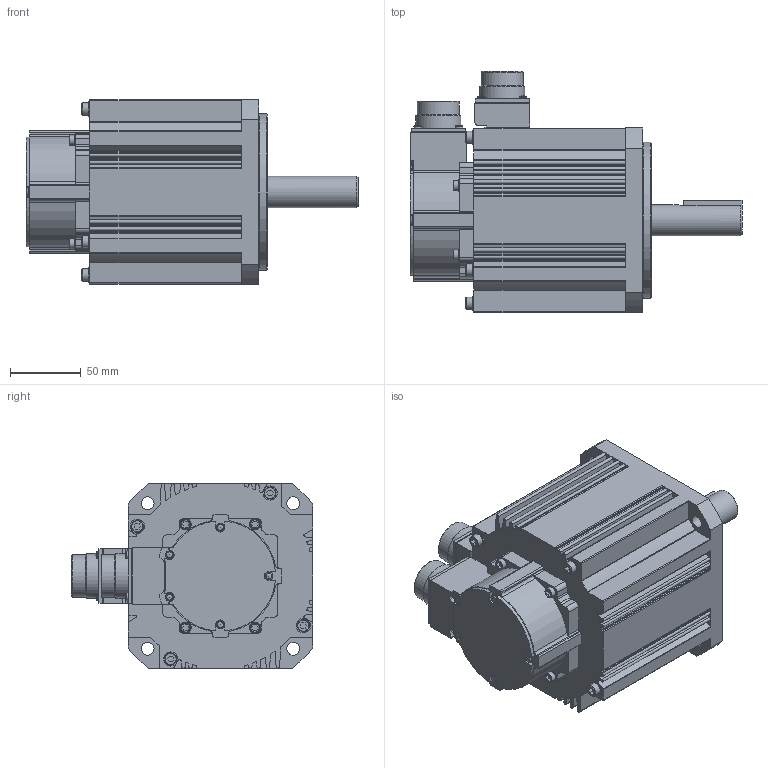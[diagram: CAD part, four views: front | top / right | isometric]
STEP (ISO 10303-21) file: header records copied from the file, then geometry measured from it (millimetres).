
FILE_DESCRIPTION( ( 'STEP AP214' ), '1' );
FILE_NAME( 'p:/temp/worker_8/temp/app_51_0201906101631050901683110e898ce_000000_00_00_000000/format_0/MHMF152L1G6 2JL10.stp', '2019-06-10T14:31:07', ( '' ), ( '' ), ' ', 'PARTsolutions', ' ' );
FILE_SCHEMA( ( 'AUTOMOTIVE_DESIGN { 1 0 10303 214 1 1 1 1 }' ) );
Length unit declared in the file: millimetre
Products named in the file (2): MHMF152L1G6 2JL10; _MHMF152L1G6 _body
Assembly tree (1 placements, depth 2):
  MHMF152L1G6 2JL10
    _MHMF152L1G6 _body
Bounding box: 234 x 170 x 130 mm (x, y, z)
Volume: 2146769.6 mm3; surface area: 147901.1 mm2
Topology: 1 solids, 1 shells, 573 faces, 1548 edges, 1011 vertices
Faces by surface type: plane 268, cylinder 250, cone 24, torus 18, sphere 13
Full cylindrical faces by diameter (mm): 2.459 x1, 5.6 x5, 7 x4, 8 x4, 8.5 x4, 9 x4, 10 x4, 22 x1, 29.75 x2, 31.75 x2, 34 x1, 38 x1, 45 x1, 102 x1, 110 x1
Entity records: 22245 total; most frequent: CARTESIAN_POINT 3282, DIRECTION 3091, ORIENTED_EDGE 2858, EDGE_CURVE 1429, AXIS2_PLACEMENT_3D 1122, VERTEX_POINT 991, LINE 847, VECTOR 847
